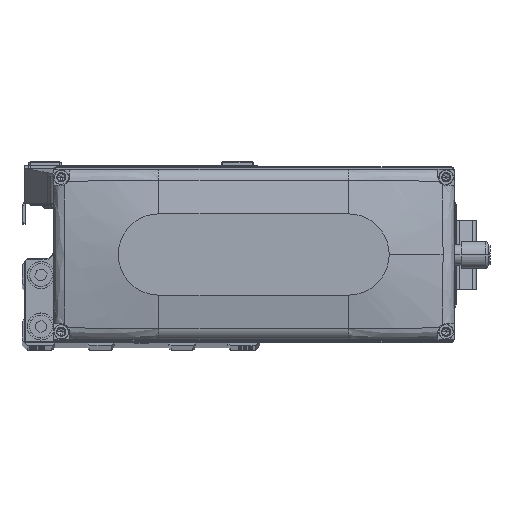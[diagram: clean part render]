
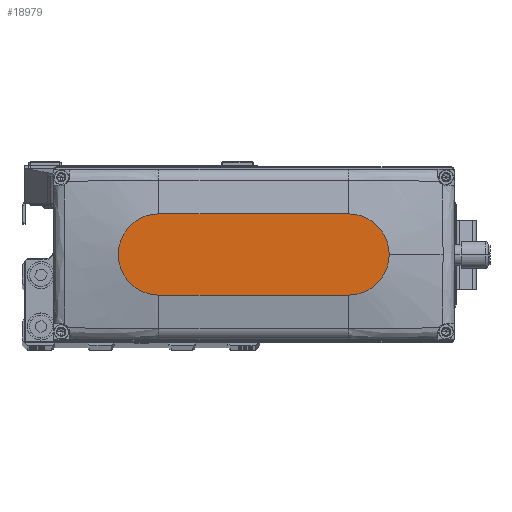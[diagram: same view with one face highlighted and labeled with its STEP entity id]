
A CAD part, top view. The second image highlights one B-rep face of the part: STEP entity #18979.
In plain terms, the highlighted planar face has unit normal (0, 0, 1).
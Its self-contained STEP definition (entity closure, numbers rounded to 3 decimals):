
#843 = DIRECTION ( 'NONE',  ( 1., 0., 0. ) ) ;
#1164 = ORIENTED_EDGE ( 'NONE', *, *, #36472, .T. ) ;
#1687 = CIRCLE ( 'NONE', #8253, 15. ) ;
#2312 = EDGE_CURVE ( 'NONE', #34049, #36405, #42497, .T. ) ;
#5698 = CARTESIAN_POINT ( 'NONE',  ( 35., -15., 35. ) ) ;
#8253 = AXIS2_PLACEMENT_3D ( 'NONE', #11968, #27612, #43190 ) ;
#10732 = DIRECTION ( 'NONE',  ( 0., 0., 1. ) ) ;
#11968 = CARTESIAN_POINT ( 'NONE',  ( -35., 0., 35. ) ) ;
#12189 = VERTEX_POINT ( 'NONE', #24465 ) ;
#13757 = AXIS2_PLACEMENT_3D ( 'NONE', #49115, #14049, #29719 ) ;
#14049 = DIRECTION ( 'NONE',  ( 0., 0., 1. ) ) ;
#14278 = CARTESIAN_POINT ( 'NONE',  ( -35., -15., 35. ) ) ;
#14637 = EDGE_CURVE ( 'NONE', #43133, #34049, #16813, .T. ) ;
#15303 = CARTESIAN_POINT ( 'NONE',  ( -35., 15., 35. ) ) ;
#16813 = CIRCLE ( 'NONE', #45412, 15. ) ;
#17890 = FACE_OUTER_BOUND ( 'NONE', #33612, .T. ) ;
#18979 = ADVANCED_FACE ( 'NONE', ( #17890 ), #33547, .T. ) ;
#19265 = CARTESIAN_POINT ( 'NONE',  ( 50., 0., 35. ) ) ;
#20308 = CARTESIAN_POINT ( 'NONE',  ( 35., 0., 35. ) ) ;
#23547 = ORIENTED_EDGE ( 'NONE', *, *, #37934, .T. ) ;
#24029 = ORIENTED_EDGE ( 'NONE', *, *, #45260, .T. ) ;
#24465 = CARTESIAN_POINT ( 'NONE',  ( -35., 15., 35. ) ) ;
#24824 = CARTESIAN_POINT ( 'NONE',  ( -35., -15., 35. ) ) ;
#26386 = DIRECTION ( 'NONE',  ( 1., 0., 0. ) ) ;
#27612 = DIRECTION ( 'NONE',  ( 0., 0., 1. ) ) ;
#29719 = DIRECTION ( 'NONE',  ( 1., 0., 0. ) ) ;
#29940 = DIRECTION ( 'NONE',  ( 1., 0., 0. ) ) ;
#30878 = VECTOR ( 'NONE', #29940, 1000. ) ;
#30953 = DIRECTION ( 'NONE',  ( -1., 0., 0. ) ) ;
#33547 = PLANE ( 'NONE',  #13757 ) ;
#33612 = EDGE_LOOP ( 'NONE', ( #1164, #23547, #24029, #37892, #37949 ) ) ;
#34049 = VERTEX_POINT ( 'NONE', #19265 ) ;
#35943 = DIRECTION ( 'NONE',  ( 0., 0., 1. ) ) ;
#36405 = VERTEX_POINT ( 'NONE', #46004 ) ;
#36472 = EDGE_CURVE ( 'NONE', #36405, #12189, #50367, .T. ) ;
#37549 = VERTEX_POINT ( 'NONE', #24824 ) ;
#37892 = ORIENTED_EDGE ( 'NONE', *, *, #14637, .T. ) ;
#37934 = EDGE_CURVE ( 'NONE', #12189, #37549, #1687, .T. ) ;
#37949 = ORIENTED_EDGE ( 'NONE', *, *, #2312, .T. ) ;
#42497 = CIRCLE ( 'NONE', #48985, 15. ) ;
#43133 = VERTEX_POINT ( 'NONE', #5698 ) ;
#43190 = DIRECTION ( 'NONE',  ( 1., 0., 0. ) ) ;
#43755 = VECTOR ( 'NONE', #30953, 1000. ) ;
#45260 = EDGE_CURVE ( 'NONE', #37549, #43133, #49353, .T. ) ;
#45412 = AXIS2_PLACEMENT_3D ( 'NONE', #45798, #10732, #26386 ) ;
#45798 = CARTESIAN_POINT ( 'NONE',  ( 35., 0., 35. ) ) ;
#46004 = CARTESIAN_POINT ( 'NONE',  ( 35., 15., 35. ) ) ;
#48985 = AXIS2_PLACEMENT_3D ( 'NONE', #20308, #35943, #843 ) ;
#49115 = CARTESIAN_POINT ( 'NONE',  ( 0., 0., 35. ) ) ;
#49353 = LINE ( 'NONE', #14278, #30878 ) ;
#50367 = LINE ( 'NONE', #15303, #43755 ) ;
